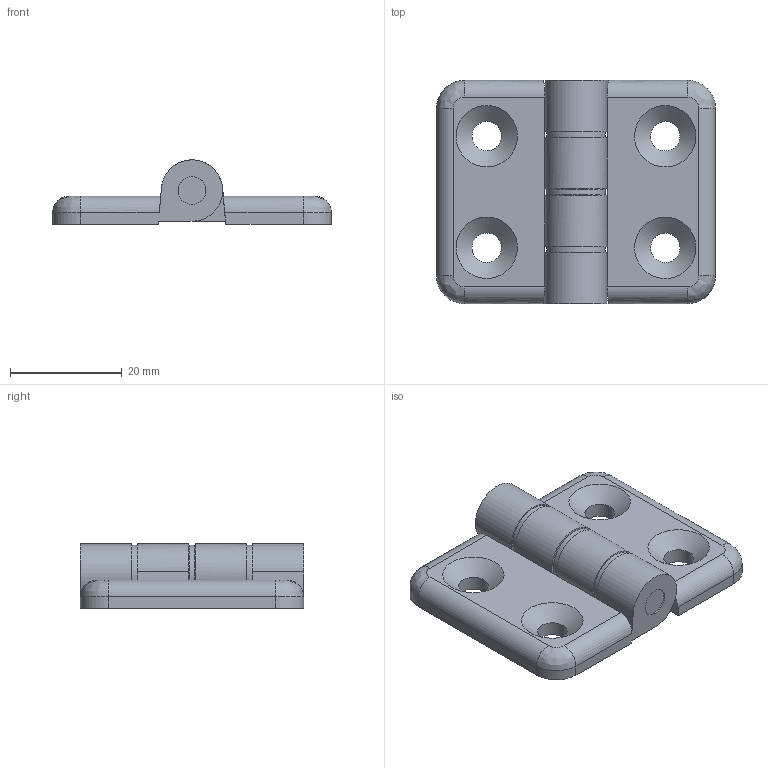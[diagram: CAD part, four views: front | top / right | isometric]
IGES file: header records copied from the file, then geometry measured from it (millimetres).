
Global section: file name: DR_HC4050; native system: Autodesk Inventor 2015; preprocessor: unknown; author: CH.J; date: 20180810.184403; units: millimetre
Bounding box: 50 x 40 x 11.5 mm (x, y, z)
Volume: 10894.8 mm3; surface area: 7647.9 mm2
Topology: 6 solids, 6 shells, 73 faces, 177 edges, 116 vertices
Faces by surface type: bspline 73
